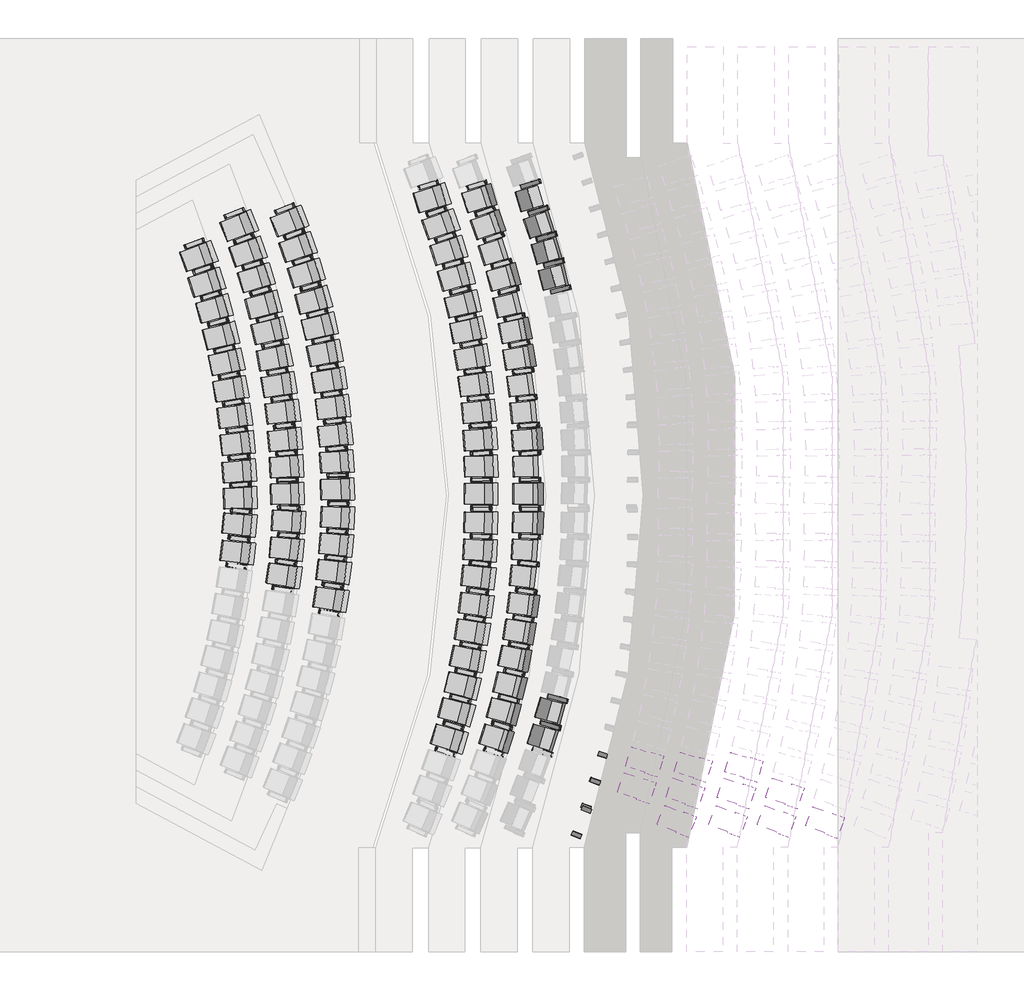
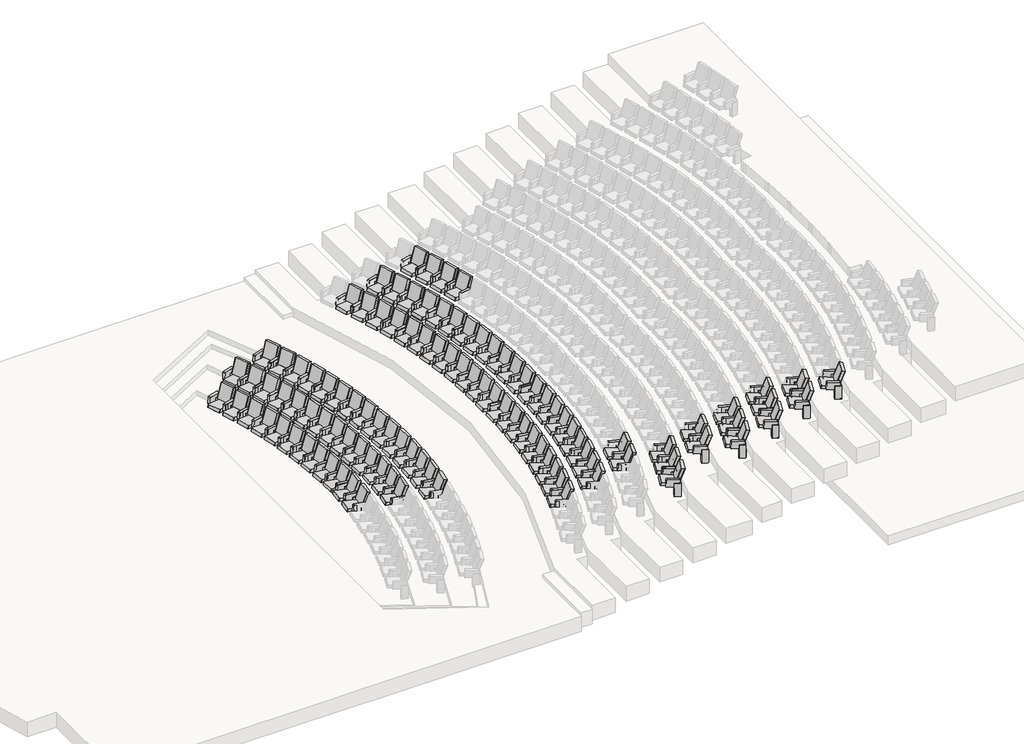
# One storey, part 2 of 5: 103 furniture elements.
"""IFC4 building model written with IfcOpenShell, lengths in millimetres."""

from ifc_helpers import new_model, si_unit, origin, place, context, project, spatial, transform, mapped, element, save
from components import flex_6035_revit_flex_6035_revit_dbd431f0, flex_6035_revit_flex_6035_revit_8256f512

model = new_model("IFC4")

# Units and contexts
model_context = context("Model", 3, world=origin())
ifc_project = project(units=[si_unit("LENGTHUNIT", "METRE", prefix="MILLI")], contexts=[model_context])

# Site, building, storey
site = spatial("IfcSite", under=ifc_project)
building = spatial("IfcBuilding", under=site)
storey = spatial("IfcBuildingStorey", under=building, Name="0 WYSOKI PARTER", Elevation=0.0)

# Furniture
placement = place(None, origin())
flex_6035_revit_flex_6035_revit_shape = flex_6035_revit_flex_6035_revit_dbd431f0(model_context)
element("IfcFurniture", 1, ObjectType="flex_6035 revit : flex_6035 revit", at=placement, inside=storey, context=model_context, shape_type="MappedRepresentation", body=[
    mapped(flex_6035_revit_flex_6035_revit_shape, transform((139299.7227715, 55275.993628, -340.0), x_axis=(-0.15207313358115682, -0.9883692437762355, 0.0), y_axis=(0.9883692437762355, -0.15207313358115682, 0.0), z_axis=(0.0, 0.0, 1.0))),
])
element("IfcFurniture", 2, ObjectType="flex_6035 revit : flex_6035 revit", at=placement, inside=storey, context=model_context, shape_type="MappedRepresentation", body=[
    mapped(flex_6035_revit_flex_6035_revit_shape, transform((139407.2433372, 56399.1333002, -340.0), x_axis=(-0.08349906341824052, -0.996507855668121, 0.0), y_axis=(0.996507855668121, -0.08349906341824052, 0.0), z_axis=(0.0, 0.0, 1.0))),
])
element("IfcFurniture", 3, ObjectType="flex_6035 revit : flex_6035 revit", at=placement, inside=storey, context=model_context, shape_type="MappedRepresentation", body=[
    mapped(flex_6035_revit_flex_6035_revit_shape, transform((139360.3416851, 55845.9928455, -340.0), x_axis=(-0.1348005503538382, -0.990872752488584, 0.0), y_axis=(0.990872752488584, -0.1348005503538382, 0.0), z_axis=(0.0, 0.0, 1.0))),
])
element("IfcFurniture", 4, ObjectType="flex_6035 revit : flex_6035 revit", at=placement, inside=storey, context=model_context, shape_type="MappedRepresentation", body=[
    mapped(flex_6035_revit_flex_6035_revit_shape, transform((139435.7279057, 56962.551015, -340.0), x_axis=(-0.04904218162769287, -0.9987967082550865, 0.0), y_axis=(0.9987967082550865, -0.04904218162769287, 0.0), z_axis=(0.0, 0.0, 1.0))),
])
element("IfcFurniture", 5, ObjectType="flex_6035 revit : flex_6035 revit", at=placement, inside=storey, context=model_context, shape_type="MappedRepresentation", body=[
    mapped(flex_6035_revit_flex_6035_revit_shape, transform((138391.5382771, 56316.3662179, -510.0), x_axis=(-0.09885877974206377, -0.9951014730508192, 0.0), y_axis=(0.9951014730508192, -0.09885877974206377, 0.0), z_axis=(0.0, 0.0, 1.0))),
])
element("IfcFurniture", 6, ObjectType="flex_6035 revit : flex_6035 revit", at=placement, inside=storey, context=model_context, shape_type="MappedRepresentation", body=[
    mapped(flex_6035_revit_flex_6035_revit_shape, transform((138336.1108369, 55764.0149469, -510.0), x_axis=(-0.15006725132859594, -0.9886757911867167, 0.0), y_axis=(0.9886757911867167, -0.15006725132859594, 0.0), z_axis=(0.0, 0.0, 1.0))),
])
element("IfcFurniture", 7, ObjectType="flex_6035 revit : flex_6035 revit", at=placement, inside=storey, context=model_context, shape_type="MappedRepresentation", body=[
    mapped(flex_6035_revit_flex_6035_revit_shape, transform((138428.709336, 56879.2775824, -510.0), x_axis=(-0.06444129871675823, -0.9979214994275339, 0.0), y_axis=(0.9979214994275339, -0.06444129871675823, 0.0), z_axis=(0.0, 0.0, 1.0))),
])
element("IfcFurniture", 8, ObjectType="flex_6035 revit : flex_6035 revit", at=placement, inside=storey, context=model_context, shape_type="MappedRepresentation", body=[
    mapped(flex_6035_revit_flex_6035_revit_shape, transform((137381.444322, 56243.2895837, -680.0), x_axis=(-0.11697618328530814, -0.9931347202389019, 0.0), y_axis=(0.9931347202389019, -0.11697618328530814, 0.0), z_axis=(0.0, 0.0, 1.0))),
])
element("IfcFurniture", 9, ObjectType="flex_6035 revit : flex_6035 revit", at=placement, inside=storey, context=model_context, shape_type="MappedRepresentation", body=[
    mapped(flex_6035_revit_flex_6035_revit_shape, transform((137421.8395751, 56815.0779923, -680.0), x_axis=(-0.0996257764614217, -0.9950249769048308, 0.0), y_axis=(0.9950249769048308, -0.0996257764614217, 0.0), z_axis=(0.0, 0.0, 1.0))),
])
element("IfcFurniture", 10, ObjectType="flex_6035 revit : flex_6035 revit", at=placement, inside=storey, context=model_context, shape_type="MappedRepresentation", body=[
    mapped(flex_6035_revit_flex_6035_revit_shape, transform((141733.5657037, 52400.8814566, 252.0), x_axis=(-0.2982954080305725, -0.9544735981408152, 0.0), y_axis=(0.9544735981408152, -0.2982954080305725, 0.0), z_axis=(0.0, 0.0, 1.0))),
])
element("IfcFurniture", 11, ObjectType="flex_6035 revit : flex_6035 revit", at=placement, inside=storey, context=model_context, shape_type="MappedRepresentation", body=[
    mapped(flex_6035_revit_flex_6035_revit_shape, transform((142010.9483862, 53494.2841804, 252.0), x_axis=(-0.23171197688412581, -0.972784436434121, 0.0), y_axis=(0.972784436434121, -0.23171197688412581, 0.0), z_axis=(0.0, 0.0, 1.0))),
])
element("IfcFurniture", 12, ObjectType="flex_6035 revit : flex_6035 revit", at=placement, inside=storey, context=model_context, shape_type="MappedRepresentation", body=[
    mapped(flex_6035_revit_flex_6035_revit_shape, transform((142115.2839717, 54048.7079398, 252.0), x_axis=(-0.1979858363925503, -0.9802048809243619, 0.0), y_axis=(0.9802048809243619, -0.1979858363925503, 0.0), z_axis=(0.0, 0.0, 1.0))),
])
element("IfcFurniture", 13, ObjectType="flex_6035 revit : flex_6035 revit", at=placement, inside=storey, context=model_context, shape_type="MappedRepresentation", body=[
    mapped(flex_6035_revit_flex_6035_revit_shape, transform((142210.2864516, 54604.5552099, 252.0), x_axis=(-0.1640235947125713, -0.9864564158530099, 0.0), y_axis=(0.9864564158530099, -0.1640235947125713, 0.0), z_axis=(0.0, 0.0, 1.0))),
])
element("IfcFurniture", 14, ObjectType="flex_6035 revit : flex_6035 revit", at=placement, inside=storey, context=model_context, shape_type="MappedRepresentation", body=[
    mapped(flex_6035_revit_flex_6035_revit_shape, transform((142287.5344551, 55163.2995157, 252.0), x_axis=(-0.12986575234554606, -0.991531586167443, 0.0), y_axis=(0.991531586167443, -0.12986575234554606, 0.0), z_axis=(0.0, 0.0, 1.0))),
])
element("IfcFurniture", 15, ObjectType="flex_6035 revit : flex_6035 revit", at=placement, inside=storey, context=model_context, shape_type="MappedRepresentation", body=[
    mapped(flex_6035_revit_flex_6035_revit_shape, transform((142369.8359476, 56288.5683101, 252.0), x_axis=(-0.06112638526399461, -0.9981300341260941, 0.0), y_axis=(0.9981300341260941, -0.06112638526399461, 0.0), z_axis=(0.0, 0.0, 1.0))),
])
element("IfcFurniture", 16, ObjectType="flex_6035 revit : flex_6035 revit", at=placement, inside=storey, context=model_context, shape_type="MappedRepresentation", body=[
    mapped(flex_6035_revit_flex_6035_revit_shape, transform((142335.3530356, 55734.5150126, 252.0), x_axis=(-0.11254136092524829, -0.9936470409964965, 0.0), y_axis=(0.9936470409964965, -0.11254136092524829, 0.0), z_axis=(0.0, 0.0, 1.0))),
])
element("IfcFurniture", 17, ObjectType="flex_6035 revit : flex_6035 revit", at=placement, inside=storey, context=model_context, shape_type="MappedRepresentation", body=[
    mapped(flex_6035_revit_flex_6035_revit_shape, transform((141884.7714646, 52957.3187684, 252.0), x_axis=(-0.2648030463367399, -0.9643025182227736, 0.0), y_axis=(0.9643025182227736, -0.2648030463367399, 0.0), z_axis=(0.0, 0.0, 1.0))),
])
element("IfcFurniture", 18, ObjectType="flex_6035 revit : flex_6035 revit", at=placement, inside=storey, context=model_context, shape_type="MappedRepresentation", body=[
    mapped(flex_6035_revit_flex_6035_revit_shape, transform((142385.6758906, 56852.4831868, 252.0), x_axis=(-0.026626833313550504, -0.9996454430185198, 0.0), y_axis=(0.9996454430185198, -0.026626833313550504, 0.0), z_axis=(0.0, 0.0, 1.0))),
])
element("IfcFurniture", 19, ObjectType="flex_6035 revit : flex_6035 revit", at=placement, inside=storey, context=model_context, shape_type="MappedRepresentation", body=[
    mapped(flex_6035_revit_flex_6035_revit_shape, transform((142733.5660647, 52400.8814566, 516.0), x_axis=(-0.2982954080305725, -0.9544735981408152, 0.0), y_axis=(0.9544735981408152, -0.2982954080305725, 0.0), z_axis=(0.0, 0.0, 1.0))),
])
element("IfcFurniture", 20, ObjectType="flex_6035 revit : flex_6035 revit", at=placement, inside=storey, context=model_context, shape_type="MappedRepresentation", body=[
    mapped(flex_6035_revit_flex_6035_revit_shape, transform((143010.9487473, 53494.2841804, 516.0), x_axis=(-0.23171197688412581, -0.972784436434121, 0.0), y_axis=(0.972784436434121, -0.23171197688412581, 0.0), z_axis=(0.0, 0.0, 1.0))),
])
element("IfcFurniture", 21, ObjectType="flex_6035 revit : flex_6035 revit", at=placement, inside=storey, context=model_context, shape_type="MappedRepresentation", body=[
    mapped(flex_6035_revit_flex_6035_revit_shape, transform((143115.2843327, 54048.7079398, 516.0), x_axis=(-0.1979858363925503, -0.9802048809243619, 0.0), y_axis=(0.9802048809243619, -0.1979858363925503, 0.0), z_axis=(0.0, 0.0, 1.0))),
])
element("IfcFurniture", 22, ObjectType="flex_6035 revit : flex_6035 revit", at=placement, inside=storey, context=model_context, shape_type="MappedRepresentation", body=[
    mapped(flex_6035_revit_flex_6035_revit_shape, transform((143210.2868126, 54604.5552099, 516.0), x_axis=(-0.1640235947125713, -0.9864564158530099, 0.0), y_axis=(0.9864564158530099, -0.1640235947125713, 0.0), z_axis=(0.0, 0.0, 1.0))),
])
element("IfcFurniture", 23, ObjectType="flex_6035 revit : flex_6035 revit", at=placement, inside=storey, context=model_context, shape_type="MappedRepresentation", body=[
    mapped(flex_6035_revit_flex_6035_revit_shape, transform((143287.5348162, 55163.2995157, 516.0), x_axis=(-0.12986575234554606, -0.991531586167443, 0.0), y_axis=(0.991531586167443, -0.12986575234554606, 0.0), z_axis=(0.0, 0.0, 1.0))),
])
element("IfcFurniture", 24, ObjectType="flex_6035 revit : flex_6035 revit", at=placement, inside=storey, context=model_context, shape_type="MappedRepresentation", body=[
    mapped(flex_6035_revit_flex_6035_revit_shape, transform((143369.8363087, 56288.5683101, 516.0), x_axis=(-0.06112638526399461, -0.9981300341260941, 0.0), y_axis=(0.9981300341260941, -0.06112638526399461, 0.0), z_axis=(0.0, 0.0, 1.0))),
])
element("IfcFurniture", 25, ObjectType="flex_6035 revit : flex_6035 revit", at=placement, inside=storey, context=model_context, shape_type="MappedRepresentation", body=[
    mapped(flex_6035_revit_flex_6035_revit_shape, transform((143335.3533967, 55734.5150126, 516.0), x_axis=(-0.11254136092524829, -0.9936470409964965, 0.0), y_axis=(0.9936470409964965, -0.11254136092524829, 0.0), z_axis=(0.0, 0.0, 1.0))),
])
element("IfcFurniture", 26, ObjectType="flex_6035 revit : flex_6035 revit", at=placement, inside=storey, context=model_context, shape_type="MappedRepresentation", body=[
    mapped(flex_6035_revit_flex_6035_revit_shape, transform((142884.7718256, 52957.3187684, 516.0), x_axis=(-0.2648030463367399, -0.9643025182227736, 0.0), y_axis=(0.9643025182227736, -0.2648030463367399, 0.0), z_axis=(0.0, 0.0, 1.0))),
])
element("IfcFurniture", 27, ObjectType="flex_6035 revit : flex_6035 revit", at=placement, inside=storey, context=model_context, shape_type="MappedRepresentation", body=[
    mapped(flex_6035_revit_flex_6035_revit_shape, transform((143385.6762516, 56852.4831868, 516.0), x_axis=(-0.026626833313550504, -0.9996454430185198, 0.0), y_axis=(0.9996454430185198, -0.026626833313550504, 0.0), z_axis=(0.0, 0.0, 1.0))),
])
element("IfcFurniture", 28, ObjectType="flex_6035 revit : flex_6035 revit", at=placement, inside=storey, context=model_context, shape_type="MappedRepresentation", body=[
    mapped(flex_6035_revit_flex_6035_revit_shape, transform((143733.5663919, 52400.8814566, 791.0), x_axis=(-0.2982954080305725, -0.9544735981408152, 0.0), y_axis=(0.9544735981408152, -0.2982954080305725, 0.0), z_axis=(0.0, 0.0, 1.0))),
])
element("IfcFurniture", 29, ObjectType="flex_6035 revit : flex_6035 revit", at=placement, inside=storey, context=model_context, shape_type="MappedRepresentation", body=[
    mapped(flex_6035_revit_flex_6035_revit_shape, transform((143884.7721528, 52957.3187684, 791.0), x_axis=(-0.2648030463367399, -0.9643025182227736, 0.0), y_axis=(0.9643025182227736, -0.2648030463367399, 0.0), z_axis=(0.0, 0.0, 1.0))),
])
element("IfcFurniture", 30, ObjectType="flex_6035 revit : flex_6035 revit", at=placement, inside=storey, context=model_context, shape_type="MappedRepresentation", body=[
    mapped(flex_6035_revit_flex_6035_revit_shape, transform((144529.2740368, 51296.0828518, 1074.0), x_axis=(-0.3382660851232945, -0.9410505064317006, 0.0), y_axis=(0.9410505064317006, -0.3382660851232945, 0.0), z_axis=(0.0, 0.0, 1.0))),
])
element("IfcFurniture", 31, ObjectType="flex_6035 revit : flex_6035 revit", at=placement, inside=storey, context=model_context, shape_type="MappedRepresentation", body=[
    mapped(flex_6035_revit_flex_6035_revit_shape, transform((144696.2072603, 51834.904665, 1074.0), x_axis=(-0.3055721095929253, -0.9521689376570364, 0.0), y_axis=(0.9521689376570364, -0.3055721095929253, 0.0), z_axis=(0.0, 0.0, 1.0))),
])
element("IfcFurniture", 32, ObjectType="flex_6035 revit : flex_6035 revit", at=placement, inside=storey, context=model_context, shape_type="MappedRepresentation", body=[
    mapped(flex_6035_revit_flex_6035_revit_shape, transform((144344.9100529, 50723.474193, 1074.0), x_axis=(-0.3719323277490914, -0.928259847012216, 0.0), y_axis=(0.928259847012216, -0.3719323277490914, 0.0), z_axis=(0.0, 0.0, 1.0))),
])
element("IfcFurniture", 33, ObjectType="flex_6035 revit : flex_6035 revit", at=placement, inside=storey, context=model_context, shape_type="MappedRepresentation", body=[
    mapped(flex_6035_revit_flex_6035_revit_shape, transform((145590.6987607, 51387.3691855, 1367.0), x_axis=(-0.3278122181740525, -0.9447429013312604, 0.0), y_axis=(0.9447429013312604, -0.3278122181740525, 0.0), z_axis=(0.0, 0.0, 1.0))),
])
element("IfcFurniture", 34, ObjectType="flex_6035 revit : flex_6035 revit", at=placement, inside=storey, context=model_context, shape_type="MappedRepresentation", body=[
    mapped(flex_6035_revit_flex_6035_revit_shape, transform((145751.6480073, 51928.0086102, 1367.0), x_axis=(-0.29499698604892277, -0.9554981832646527, 0.0), y_axis=(0.9554981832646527, -0.29499698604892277, 0.0), z_axis=(0.0, 0.0, 1.0))),
])
element("IfcFurniture", 35, ObjectType="flex_6035 revit : flex_6035 revit", at=placement, inside=storey, context=model_context, shape_type="MappedRepresentation", body=[
    mapped(flex_6035_revit_flex_6035_revit_shape, transform((146590.8518445, 51279.0654768, 1668.0), x_axis=(-0.3278122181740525, -0.9447429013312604, 0.0), y_axis=(0.9447429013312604, -0.3278122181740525, 0.0), z_axis=(0.0, 0.0, 1.0))),
])
element("IfcFurniture", 36, ObjectType="flex_6035 revit : flex_6035 revit", at=placement, inside=storey, context=model_context, shape_type="MappedRepresentation", body=[
    mapped(flex_6035_revit_flex_6035_revit_shape, transform((146751.8010911, 51819.7049014, 1668.0), x_axis=(-0.29499698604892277, -0.9554981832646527, 0.0), y_axis=(0.9554981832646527, -0.29499698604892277, 0.0), z_axis=(0.0, 0.0, 1.0))),
])
element("IfcFurniture", 37, ObjectType="flex_6035 revit : flex_6035 revit", at=placement, inside=storey, context=model_context, shape_type="MappedRepresentation", body=[
    mapped(flex_6035_revit_flex_6035_revit_shape, transform((146412.847491, 50704.4480346, 1668.0), x_axis=(-0.36161819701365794, -0.9323262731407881, 0.0), y_axis=(0.9323262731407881, -0.36161819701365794, 0.0), z_axis=(0.0, 0.0, 1.0))),
])
element("IfcFurniture", 38, ObjectType="flex_6035 revit : flex_6035 revit", at=placement, inside=storey, context=model_context, shape_type="MappedRepresentation", body=[
    mapped(flex_6035_revit_flex_6035_revit_shape, transform((147639.8700195, 51277.9646256, 1977.0), x_axis=(-0.31906039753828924, -0.947734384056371, 0.0), y_axis=(0.947734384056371, -0.31906039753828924, 0.0), z_axis=(0.0, 0.0, 1.0))),
])
element("IfcFurniture", 39, ObjectType="flex_6035 revit : flex_6035 revit", at=placement, inside=storey, context=model_context, shape_type="MappedRepresentation", body=[
    mapped(flex_6035_revit_flex_6035_revit_shape, transform((147795.8120809, 51820.069524, 1977.0), x_axis=(-0.2861470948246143, -0.9581857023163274, 0.0), y_axis=(0.9581857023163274, -0.2861470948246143, 0.0), z_axis=(0.0, 0.0, 1.0))),
])
element("IfcFurniture", 40, ObjectType="flex_6035 revit : flex_6035 revit", at=placement, inside=storey, context=model_context, shape_type="MappedRepresentation", body=[
    mapped(flex_6035_revit_flex_6035_revit_shape, transform((147467.1878387, 50701.7254225, 1977.0), x_axis=(-0.35297977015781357, -0.9356309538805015, 0.0), y_axis=(0.9356309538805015, -0.35297977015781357, 0.0), z_axis=(0.0, 0.0, 1.0))),
])
element("IfcFurniture", 41, ObjectType="flex_6035 revit : flex_6035 revit", at=placement, inside=storey, context=model_context, shape_type="MappedRepresentation", body=[
    mapped(flex_6035_revit_flex_6035_revit_shape, transform((148638.9166431, 51277.9646256, 2293.0), x_axis=(-0.31906039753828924, -0.947734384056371, 0.0), y_axis=(0.947734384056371, -0.31906039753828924, 0.0), z_axis=(0.0, 0.0, 1.0))),
])
element("IfcFurniture", 42, ObjectType="flex_6035 revit : flex_6035 revit", at=placement, inside=storey, context=model_context, shape_type="MappedRepresentation", body=[
    mapped(flex_6035_revit_flex_6035_revit_shape, transform((148466.2344623, 50701.7254225, 2293.0), x_axis=(-0.35297977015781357, -0.9356309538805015, 0.0), y_axis=(0.9356309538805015, -0.35297977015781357, 0.0), z_axis=(0.0, 0.0, 1.0))),
])
element("IfcFurniture", 43, ObjectType="flex_6035 revit : flex_6035 revit", at=placement, inside=storey, context=model_context, shape_type="MappedRepresentation", body=[
    mapped(flex_6035_revit_flex_6035_revit_shape, transform((149465.9859398, 50679.4323005, 2616.0), x_axis=(-0.35297977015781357, -0.9356309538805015, 0.0), y_axis=(0.9356309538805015, -0.35297977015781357, 0.0), z_axis=(0.0, 0.0, 1.0))),
])
flex_6035_revit_flex_6035_revit_2_shape = flex_6035_revit_flex_6035_revit_8256f512(model_context)
element("IfcFurniture", 44, ObjectType="flex_6035 revit : flex_6035 revit", at=placement, inside=storey, context=model_context, shape_type="MappedRepresentation", body=[
    mapped(flex_6035_revit_flex_6035_revit_2_shape, transform((138442.6450407, 63067.0772808, -340.0), x_axis=(-0.3614762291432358, 0.9323813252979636, 0.0), y_axis=(-0.9323813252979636, -0.3614762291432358, 0.0), z_axis=(0.0, 0.0, 1.0))),
])
element("IfcFurniture", 45, ObjectType="flex_6035 revit : flex_6035 revit", at=placement, inside=storey, context=model_context, shape_type="MappedRepresentation", body=[
    mapped(flex_6035_revit_flex_6035_revit_2_shape, transform((138622.8760182, 62532.5565214, -340.0), x_axis=(-0.329067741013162, 0.9443063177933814, 0.0), y_axis=(-0.9443063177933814, -0.329067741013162, 0.0), z_axis=(0.0, 0.0, 1.0))),
])
element("IfcFurniture", 46, ObjectType="flex_6035 revit : flex_6035 revit", at=placement, inside=storey, context=model_context, shape_type="MappedRepresentation", body=[
    mapped(flex_6035_revit_flex_6035_revit_2_shape, transform((138793.4690964, 61995.0487615, -340.0), x_axis=(-0.2962668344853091, 0.9551052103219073, 0.0), y_axis=(-0.9551052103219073, -0.2962668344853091, 0.0), z_axis=(0.0, 0.0, 1.0))),
])
element("IfcFurniture", 47, ObjectType="flex_6035 revit : flex_6035 revit", at=placement, inside=storey, context=model_context, shape_type="MappedRepresentation", body=[
    mapped(flex_6035_revit_flex_6035_revit_2_shape, transform((139068.5280801, 60901.0591708, -340.0), x_axis=(-0.22964464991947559, 0.9732745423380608, 0.0), y_axis=(-0.9732745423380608, -0.22964464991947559, 0.0), z_axis=(0.0, 0.0, 1.0))),
])
element("IfcFurniture", 48, ObjectType="flex_6035 revit : flex_6035 revit", at=placement, inside=storey, context=model_context, shape_type="MappedRepresentation", body=[
    mapped(flex_6035_revit_flex_6035_revit_2_shape, transform((139171.6854864, 60346.4149886, -340.0), x_axis=(-0.19590281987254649, 0.9806233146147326, 0.0), y_axis=(-0.9806233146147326, -0.19590281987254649, 0.0), z_axis=(0.0, 0.0, 1.0))),
])
element("IfcFurniture", 49, ObjectType="flex_6035 revit : flex_6035 revit", at=placement, inside=storey, context=model_context, shape_type="MappedRepresentation", body=[
    mapped(flex_6035_revit_flex_6035_revit_2_shape, transform((139265.5067838, 59790.3671282, -340.0), x_axis=(-0.16192737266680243, 0.9868026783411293, 0.0), y_axis=(-0.9868026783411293, -0.16192737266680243, 0.0), z_axis=(0.0, 0.0, 1.0))),
])
element("IfcFurniture", 50, ObjectType="flex_6035 revit : flex_6035 revit", at=placement, inside=storey, context=model_context, shape_type="MappedRepresentation", body=[
    mapped(flex_6035_revit_flex_6035_revit_2_shape, transform((139341.5674898, 59231.4599604, -340.0), x_axis=(-0.12775882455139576, 0.9918052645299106, 0.0), y_axis=(-0.9918052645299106, -0.12775882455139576, 0.0), z_axis=(0.0, 0.0, 1.0))),
])
element("IfcFurniture", 51, ObjectType="flex_6035 revit : flex_6035 revit", at=placement, inside=storey, context=model_context, shape_type="MappedRepresentation", body=[
    mapped(flex_6035_revit_flex_6035_revit_2_shape, transform((139421.4780202, 58106.0188457, -340.0), x_axis=(-0.059005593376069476, 0.9982576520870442, 0.0), y_axis=(-0.9982576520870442, -0.059005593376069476, 0.0), z_axis=(0.0, 0.0, 1.0))),
])
element("IfcFurniture", 52, ObjectType="flex_6035 revit : flex_6035 revit", at=placement, inside=storey, context=model_context, shape_type="MappedRepresentation", body=[
    mapped(flex_6035_revit_flex_6035_revit_2_shape, transform((139388.1723426, 58660.144156, -340.0), x_axis=(-0.11042997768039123, 0.9938839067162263, 0.0), y_axis=(-0.9938839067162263, -0.11042997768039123, 0.0), z_axis=(0.0, 0.0, 1.0))),
])
element("IfcFurniture", 53, ObjectType="flex_6035 revit : flex_6035 revit", at=placement, inside=storey, context=model_context, shape_type="MappedRepresentation", body=[
    mapped(flex_6035_revit_flex_6035_revit_2_shape, transform((138943.4922944, 61438.2914497, -340.0), x_axis=(-0.26275366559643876, 0.9648629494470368, 0.0), y_axis=(-0.9648629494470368, -0.26275366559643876, 0.0), z_axis=(0.0, 0.0, 1.0))),
])
element("IfcFurniture", 54, ObjectType="flex_6035 revit : flex_6035 revit", at=placement, inside=storey, context=model_context, shape_type="MappedRepresentation", body=[
    mapped(flex_6035_revit_flex_6035_revit_2_shape, transform((139436.1198187, 57542.0715878, -340.0), x_axis=(-0.024502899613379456, 0.9996997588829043, 0.0), y_axis=(-0.9996997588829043, -0.024502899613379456, 0.0), z_axis=(0.0, 0.0, 1.0))),
])
element("IfcFurniture", 55, ObjectType="flex_6035 revit : flex_6035 revit", at=placement, inside=storey, context=model_context, shape_type="MappedRepresentation", body=[
    mapped(flex_6035_revit_flex_6035_revit_2_shape, transform((137410.5529166, 62971.2704636, -510.0), x_axis=(-0.3614762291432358, 0.9323813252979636, 0.0), y_axis=(-0.9323813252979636, -0.3614762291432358, 0.0), z_axis=(0.0, 0.0, 1.0))),
])
element("IfcFurniture", 56, ObjectType="flex_6035 revit : flex_6035 revit", at=placement, inside=storey, context=model_context, shape_type="MappedRepresentation", body=[
    mapped(flex_6035_revit_flex_6035_revit_2_shape, transform((137590.7838941, 62436.7497042, -510.0), x_axis=(-0.329067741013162, 0.9443063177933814, 0.0), y_axis=(-0.9443063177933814, -0.329067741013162, 0.0), z_axis=(0.0, 0.0, 1.0))),
])
element("IfcFurniture", 57, ObjectType="flex_6035 revit : flex_6035 revit", at=placement, inside=storey, context=model_context, shape_type="MappedRepresentation", body=[
    mapped(flex_6035_revit_flex_6035_revit_2_shape, transform((137761.3769724, 61899.2419444, -510.0), x_axis=(-0.2962668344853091, 0.9551052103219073, 0.0), y_axis=(-0.9551052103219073, -0.2962668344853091, 0.0), z_axis=(0.0, 0.0, 1.0))),
])
element("IfcFurniture", 58, ObjectType="flex_6035 revit : flex_6035 revit", at=placement, inside=storey, context=model_context, shape_type="MappedRepresentation", body=[
    mapped(flex_6035_revit_flex_6035_revit_2_shape, transform((138036.4359561, 60805.2523537, -510.0), x_axis=(-0.22964464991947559, 0.9732745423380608, 0.0), y_axis=(-0.9732745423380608, -0.22964464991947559, 0.0), z_axis=(0.0, 0.0, 1.0))),
])
element("IfcFurniture", 59, ObjectType="flex_6035 revit : flex_6035 revit", at=placement, inside=storey, context=model_context, shape_type="MappedRepresentation", body=[
    mapped(flex_6035_revit_flex_6035_revit_2_shape, transform((138139.5933623, 60250.6081715, -510.0), x_axis=(-0.19590281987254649, 0.9806233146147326, 0.0), y_axis=(-0.9806233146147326, -0.19590281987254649, 0.0), z_axis=(0.0, 0.0, 1.0))),
])
element("IfcFurniture", 60, ObjectType="flex_6035 revit : flex_6035 revit", at=placement, inside=storey, context=model_context, shape_type="MappedRepresentation", body=[
    mapped(flex_6035_revit_flex_6035_revit_2_shape, transform((138233.4146598, 59694.5603111, -510.0), x_axis=(-0.16192737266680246, 0.9868026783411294, 0.0), y_axis=(-0.9868026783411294, -0.16192737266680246, 0.0), z_axis=(0.0, 0.0, 1.0))),
])
element("IfcFurniture", 61, ObjectType="flex_6035 revit : flex_6035 revit", at=placement, inside=storey, context=model_context, shape_type="MappedRepresentation", body=[
    mapped(flex_6035_revit_flex_6035_revit_2_shape, transform((138309.4753658, 59135.6531433, -510.0), x_axis=(-0.12775882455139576, 0.9918052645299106, 0.0), y_axis=(-0.9918052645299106, -0.12775882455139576, 0.0), z_axis=(0.0, 0.0, 1.0))),
])
element("IfcFurniture", 62, ObjectType="flex_6035 revit : flex_6035 revit", at=placement, inside=storey, context=model_context, shape_type="MappedRepresentation", body=[
    mapped(flex_6035_revit_flex_6035_revit_2_shape, transform((138389.3858962, 58010.2120286, -510.0), x_axis=(-0.059005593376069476, 0.9982576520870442, 0.0), y_axis=(-0.9982576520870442, -0.059005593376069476, 0.0), z_axis=(0.0, 0.0, 1.0))),
])
element("IfcFurniture", 63, ObjectType="flex_6035 revit : flex_6035 revit", at=placement, inside=storey, context=model_context, shape_type="MappedRepresentation", body=[
    mapped(flex_6035_revit_flex_6035_revit_2_shape, transform((138356.0802186, 58564.3373389, -510.0), x_axis=(-0.11042997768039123, 0.9938839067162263, 0.0), y_axis=(-0.9938839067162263, -0.11042997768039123, 0.0), z_axis=(0.0, 0.0, 1.0))),
])
element("IfcFurniture", 64, ObjectType="flex_6035 revit : flex_6035 revit", at=placement, inside=storey, context=model_context, shape_type="MappedRepresentation", body=[
    mapped(flex_6035_revit_flex_6035_revit_2_shape, transform((137911.4001703, 61342.4846326, -510.0), x_axis=(-0.26275366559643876, 0.9648629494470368, 0.0), y_axis=(-0.9648629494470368, -0.26275366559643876, 0.0), z_axis=(0.0, 0.0, 1.0))),
])
element("IfcFurniture", 65, ObjectType="flex_6035 revit : flex_6035 revit", at=placement, inside=storey, context=model_context, shape_type="MappedRepresentation", body=[
    mapped(flex_6035_revit_flex_6035_revit_2_shape, transform((138404.0276947, 57446.2647707, -510.0), x_axis=(-0.024502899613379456, 0.9996997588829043, 0.0), y_axis=(-0.9996997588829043, -0.024502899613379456, 0.0), z_axis=(0.0, 0.0, 1.0))),
])
element("IfcFurniture", 66, ObjectType="flex_6035 revit : flex_6035 revit", at=placement, inside=storey, context=model_context, shape_type="MappedRepresentation", body=[
    mapped(flex_6035_revit_flex_6035_revit_2_shape, transform((136577.9042041, 62344.5748727, -680.0), x_axis=(-0.338521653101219, 0.9409586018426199, 0.0), y_axis=(-0.9409586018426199, -0.338521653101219, 0.0), z_axis=(0.0, 0.0, 1.0))),
])
element("IfcFurniture", 67, ObjectType="flex_6035 revit : flex_6035 revit", at=placement, inside=storey, context=model_context, shape_type="MappedRepresentation", body=[
    mapped(flex_6035_revit_flex_6035_revit_2_shape, transform((136744.9837604, 61805.7984168, -680.0), x_axis=(-0.30583069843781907, 0.9520859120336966, 0.0), y_axis=(-0.9520859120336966, -0.30583069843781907, 0.0), z_axis=(0.0, 0.0, 1.0))),
])
element("IfcFurniture", 68, ObjectType="flex_6035 revit : flex_6035 revit", at=placement, inside=storey, context=model_context, shape_type="MappedRepresentation", body=[
    mapped(flex_6035_revit_flex_6035_revit_2_shape, transform((136902.3551209, 61264.2720139, -680.0), x_axis=(-0.2727750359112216, 0.9620778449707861, 0.0), y_axis=(-0.9620778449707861, -0.2727750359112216, 0.0), z_axis=(0.0, 0.0, 1.0))),
])
element("IfcFurniture", 69, ObjectType="flex_6035 revit : flex_6035 revit", at=placement, inside=storey, context=model_context, shape_type="MappedRepresentation", body=[
    mapped(flex_6035_revit_flex_6035_revit_2_shape, transform((137150.5256034, 60163.8711412, -680.0), x_axis=(-0.20572765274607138, 0.9786092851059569, 0.0), y_axis=(-0.9786092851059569, -0.20572765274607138, 0.0), z_axis=(0.0, 0.0, 1.0))),
])
element("IfcFurniture", 70, ObjectType="flex_6035 revit : flex_6035 revit", at=placement, inside=storey, context=model_context, shape_type="MappedRepresentation", body=[
    mapped(flex_6035_revit_flex_6035_revit_2_shape, transform((137240.0616469, 59606.8658304, -680.0), x_axis=(-0.1718158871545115, 0.9851290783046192, 0.0), y_axis=(-0.9851290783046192, -0.1718158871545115, 0.0), z_axis=(0.0, 0.0, 1.0))),
])
element("IfcFurniture", 71, ObjectType="flex_6035 revit : flex_6035 revit", at=placement, inside=storey, context=model_context, shape_type="MappedRepresentation", body=[
    mapped(flex_6035_revit_flex_6035_revit_2_shape, transform((137320.2299904, 59048.6860245, -680.0), x_axis=(-0.1376992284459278, 0.9904740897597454, 0.0), y_axis=(-0.9904740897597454, -0.1376992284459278, 0.0), z_axis=(0.0, 0.0, 1.0))),
])
element("IfcFurniture", 72, ObjectType="flex_6035 revit : flex_6035 revit", at=placement, inside=storey, context=model_context, shape_type="MappedRepresentation", body=[
    mapped(flex_6035_revit_flex_6035_revit_2_shape, transform((137382.5730137, 58488.0829558, -680.0), x_axis=(-0.10341836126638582, 0.9946379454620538, 0.0), y_axis=(-0.9946379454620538, -0.10341836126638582, 0.0), z_axis=(0.0, 0.0, 1.0))),
])
element("IfcFurniture", 73, ObjectType="flex_6035 revit : flex_6035 revit", at=placement, inside=storey, context=model_context, shape_type="MappedRepresentation", body=[
    mapped(flex_6035_revit_flex_6035_revit_2_shape, transform((137434.882981, 57361.0217051, -680.0), x_axis=(-0.034527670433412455, 0.9994037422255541, 0.0), y_axis=(-0.9994037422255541, -0.034527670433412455, 0.0), z_axis=(0.0, 0.0, 1.0))),
])
element("IfcFurniture", 74, ObjectType="flex_6035 revit : flex_6035 revit", at=placement, inside=storey, context=model_context, shape_type="MappedRepresentation", body=[
    mapped(flex_6035_revit_flex_6035_revit_2_shape, transform((137415.16498, 57915.7967299, -680.0), x_axis=(-0.08604378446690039, 0.9962913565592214, 0.0), y_axis=(-0.9962913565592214, -0.08604378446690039, 0.0), z_axis=(0.0, 0.0, 1.0))),
])
element("IfcFurniture", 75, ObjectType="flex_6035 revit : flex_6035 revit", at=placement, inside=storey, context=model_context, shape_type="MappedRepresentation", body=[
    mapped(flex_6035_revit_flex_6035_revit_2_shape, transform((137038.6911072, 60704.0058602, -680.0), x_axis=(-0.23903283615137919, 0.9710114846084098, 0.0), y_axis=(-0.9710114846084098, -0.23903283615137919, 0.0), z_axis=(0.0, 0.0, 1.0))),
])
element("IfcFurniture", 76, ObjectType="flex_6035 revit : flex_6035 revit", at=placement, inside=storey, context=model_context, shape_type="MappedRepresentation", body=[
    mapped(flex_6035_revit_flex_6035_revit_2_shape, transform((141560.1264598, 63000.9762026, 252.0), x_axis=(-0.33328636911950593, 0.9428256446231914, 0.0), y_axis=(-0.9428256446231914, -0.33328636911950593, 0.0), z_axis=(0.0, 0.0, 1.0))),
])
element("IfcFurniture", 77, ObjectType="flex_6035 revit : flex_6035 revit", at=placement, inside=storey, context=model_context, shape_type="MappedRepresentation", body=[
    mapped(flex_6035_revit_flex_6035_revit_2_shape, transform((141724.2087972, 62461.2794043, 252.0), x_axis=(-0.300534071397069, 0.9537710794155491, 0.0), y_axis=(-0.9537710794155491, -0.300534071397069, 0.0), z_axis=(0.0, 0.0, 1.0))),
])
element("IfcFurniture", 78, ObjectType="flex_6035 revit : flex_6035 revit", at=placement, inside=storey, context=model_context, shape_type="MappedRepresentation", body=[
    mapped(flex_6035_revit_flex_6035_revit_2_shape, transform((141878.5678039, 61918.8866617, 252.0), x_axis=(-0.26742338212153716, 0.9635791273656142, 0.0), y_axis=(-0.9635791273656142, -0.26742338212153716, 0.0), z_axis=(0.0, 0.0, 1.0))),
])
element("IfcFurniture", 79, ObjectType="flex_6035 revit : flex_6035 revit", at=placement, inside=storey, context=model_context, shape_type="MappedRepresentation", body=[
    mapped(flex_6035_revit_flex_6035_revit_2_shape, transform((142120.6181829, 60817.1234008, 252.0), x_axis=(-0.20028514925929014, 0.9797376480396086, 0.0), y_axis=(-0.9797376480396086, -0.20028514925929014, 0.0), z_axis=(0.0, 0.0, 1.0))),
])
element("IfcFurniture", 80, ObjectType="flex_6035 revit : flex_6035 revit", at=placement, inside=storey, context=model_context, shape_type="MappedRepresentation", body=[
    mapped(flex_6035_revit_flex_6035_revit_2_shape, transform((142207.0568853, 60259.6290331, 252.0), x_axis=(-0.1663376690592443, 0.986068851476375, 0.0), y_axis=(-0.986068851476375, -0.1663376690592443, 0.0), z_axis=(0.0, 0.0, 1.0))),
])
element("IfcFurniture", 81, ObjectType="flex_6035 revit : flex_6035 revit", at=placement, inside=storey, context=model_context, shape_type="MappedRepresentation", body=[
    mapped(flex_6035_revit_flex_6035_revit_2_shape, transform((142284.1215044, 59701.0122562, 252.0), x_axis=(-0.13219182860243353, 0.9912241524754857, 0.0), y_axis=(-0.9912241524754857, -0.13219182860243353, 0.0), z_axis=(0.0, 0.0, 1.0))),
])
element("IfcFurniture", 82, ObjectType="flex_6035 revit : flex_6035 revit", at=placement, inside=storey, context=model_context, shape_type="MappedRepresentation", body=[
    mapped(flex_6035_revit_flex_6035_revit_2_shape, transform((142343.3476095, 59140.0713308, 252.0), x_axis=(-0.09788834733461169, 0.9951974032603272, 0.0), y_axis=(-0.9951974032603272, -0.09788834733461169, 0.0), z_axis=(0.0, 0.0, 1.0))),
])
element("IfcFurniture", 83, ObjectType="flex_6035 revit : flex_6035 revit", at=placement, inside=storey, context=model_context, shape_type="MappedRepresentation", body=[
    mapped(flex_6035_revit_flex_6035_revit_2_shape, transform((142389.3923145, 58012.7367396, 252.0), x_axis=(-0.028972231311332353, 0.9995802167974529, 0.0), y_axis=(-0.9995802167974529, -0.028972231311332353, 0.0), z_axis=(0.0, 0.0, 1.0))),
])
element("IfcFurniture", 84, ObjectType="flex_6035 revit : flex_6035 revit", at=placement, inside=storey, context=model_context, shape_type="MappedRepresentation", body=[
    mapped(flex_6035_revit_flex_6035_revit_2_shape, transform((142372.7581796, 58567.6127918, 252.0), x_axis=(-0.08050484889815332, 0.9967542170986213, 0.0), y_axis=(-0.9967542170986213, -0.08050484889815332, 0.0), z_axis=(0.0, 0.0, 1.0))),
])
element("IfcFurniture", 85, ObjectType="flex_6035 revit : flex_6035 revit", at=placement, inside=storey, context=model_context, shape_type="MappedRepresentation", body=[
    mapped(flex_6035_revit_flex_6035_revit_2_shape, transform((142011.7876018, 61357.871377, 252.0), x_axis=(-0.23363204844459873, 0.9723250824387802, 0.0), y_axis=(-0.9723250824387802, -0.23363204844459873, 0.0), z_axis=(0.0, 0.0, 1.0))),
])
element("IfcFurniture", 86, ObjectType="flex_6035 revit : flex_6035 revit", at=placement, inside=storey, context=model_context, shape_type="MappedRepresentation", body=[
    mapped(flex_6035_revit_flex_6035_revit_2_shape, transform((142387.0757654, 57448.6041971, 252.0), x_axis=(0.00555821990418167, 0.9999845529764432, 0.0), y_axis=(-0.9999845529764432, 0.00555821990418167, 0.0), z_axis=(0.0, 0.0, 1.0))),
])
element("IfcFurniture", 87, ObjectType="flex_6035 revit : flex_6035 revit", at=placement, inside=storey, context=model_context, shape_type="MappedRepresentation", body=[
    mapped(flex_6035_revit_flex_6035_revit_2_shape, transform((141379.4412228, 63543.0454907, 252.0), x_axis=(-0.300534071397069, 0.9537710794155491, 0.0), y_axis=(-0.9537710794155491, -0.300534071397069, 0.0), z_axis=(0.0, 0.0, 1.0))),
])
element("IfcFurniture", 88, ObjectType="flex_6035 revit : flex_6035 revit", at=placement, inside=storey, context=model_context, shape_type="MappedRepresentation", body=[
    mapped(flex_6035_revit_flex_6035_revit_2_shape, transform((142560.1268208, 63000.9762026, 516.0), x_axis=(-0.33328636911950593, 0.9428256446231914, 0.0), y_axis=(-0.9428256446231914, -0.33328636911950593, 0.0), z_axis=(0.0, 0.0, 1.0))),
])
element("IfcFurniture", 89, ObjectType="flex_6035 revit : flex_6035 revit", at=placement, inside=storey, context=model_context, shape_type="MappedRepresentation", body=[
    mapped(flex_6035_revit_flex_6035_revit_2_shape, transform((142724.2091582, 62461.2794043, 516.0), x_axis=(-0.300534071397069, 0.9537710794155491, 0.0), y_axis=(-0.9537710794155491, -0.300534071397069, 0.0), z_axis=(0.0, 0.0, 1.0))),
])
element("IfcFurniture", 90, ObjectType="flex_6035 revit : flex_6035 revit", at=placement, inside=storey, context=model_context, shape_type="MappedRepresentation", body=[
    mapped(flex_6035_revit_flex_6035_revit_2_shape, transform((142878.568165, 61918.8866617, 516.0), x_axis=(-0.26742338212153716, 0.9635791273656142, 0.0), y_axis=(-0.9635791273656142, -0.26742338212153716, 0.0), z_axis=(0.0, 0.0, 1.0))),
])
element("IfcFurniture", 91, ObjectType="flex_6035 revit : flex_6035 revit", at=placement, inside=storey, context=model_context, shape_type="MappedRepresentation", body=[
    mapped(flex_6035_revit_flex_6035_revit_2_shape, transform((143120.618544, 60817.1234008, 516.0), x_axis=(-0.20028514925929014, 0.9797376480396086, 0.0), y_axis=(-0.9797376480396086, -0.20028514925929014, 0.0), z_axis=(0.0, 0.0, 1.0))),
])
element("IfcFurniture", 92, ObjectType="flex_6035 revit : flex_6035 revit", at=placement, inside=storey, context=model_context, shape_type="MappedRepresentation", body=[
    mapped(flex_6035_revit_flex_6035_revit_2_shape, transform((143207.0572464, 60259.6290331, 516.0), x_axis=(-0.1663376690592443, 0.986068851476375, 0.0), y_axis=(-0.986068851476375, -0.1663376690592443, 0.0), z_axis=(0.0, 0.0, 1.0))),
])
element("IfcFurniture", 93, ObjectType="flex_6035 revit : flex_6035 revit", at=placement, inside=storey, context=model_context, shape_type="MappedRepresentation", body=[
    mapped(flex_6035_revit_flex_6035_revit_2_shape, transform((143284.1218655, 59701.0122562, 516.0), x_axis=(-0.13219182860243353, 0.9912241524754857, 0.0), y_axis=(-0.9912241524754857, -0.13219182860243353, 0.0), z_axis=(0.0, 0.0, 1.0))),
])
element("IfcFurniture", 94, ObjectType="flex_6035 revit : flex_6035 revit", at=placement, inside=storey, context=model_context, shape_type="MappedRepresentation", body=[
    mapped(flex_6035_revit_flex_6035_revit_2_shape, transform((143343.3479705, 59140.0713308, 516.0), x_axis=(-0.09788834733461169, 0.9951974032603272, 0.0), y_axis=(-0.9951974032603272, -0.09788834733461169, 0.0), z_axis=(0.0, 0.0, 1.0))),
])
element("IfcFurniture", 95, ObjectType="flex_6035 revit : flex_6035 revit", at=placement, inside=storey, context=model_context, shape_type="MappedRepresentation", body=[
    mapped(flex_6035_revit_flex_6035_revit_2_shape, transform((143389.3926755, 58012.7367396, 516.0), x_axis=(-0.028972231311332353, 0.9995802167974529, 0.0), y_axis=(-0.9995802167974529, -0.028972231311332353, 0.0), z_axis=(0.0, 0.0, 1.0))),
])
element("IfcFurniture", 96, ObjectType="flex_6035 revit : flex_6035 revit", at=placement, inside=storey, context=model_context, shape_type="MappedRepresentation", body=[
    mapped(flex_6035_revit_flex_6035_revit_2_shape, transform((143372.7585407, 58567.6127918, 516.0), x_axis=(-0.08050484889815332, 0.9967542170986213, 0.0), y_axis=(-0.9967542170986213, -0.08050484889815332, 0.0), z_axis=(0.0, 0.0, 1.0))),
])
element("IfcFurniture", 97, ObjectType="flex_6035 revit : flex_6035 revit", at=placement, inside=storey, context=model_context, shape_type="MappedRepresentation", body=[
    mapped(flex_6035_revit_flex_6035_revit_2_shape, transform((143011.7879628, 61357.871377, 516.0), x_axis=(-0.23363204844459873, 0.9723250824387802, 0.0), y_axis=(-0.9723250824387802, -0.23363204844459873, 0.0), z_axis=(0.0, 0.0, 1.0))),
])
element("IfcFurniture", 98, ObjectType="flex_6035 revit : flex_6035 revit", at=placement, inside=storey, context=model_context, shape_type="MappedRepresentation", body=[
    mapped(flex_6035_revit_flex_6035_revit_2_shape, transform((143387.0761264, 57448.6041971, 516.0), x_axis=(0.00555821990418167, 0.9999845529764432, 0.0), y_axis=(-0.9999845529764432, 0.00555821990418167, 0.0), z_axis=(0.0, 0.0, 1.0))),
])
element("IfcFurniture", 99, ObjectType="flex_6035 revit : flex_6035 revit", at=placement, inside=storey, context=model_context, shape_type="MappedRepresentation", body=[
    mapped(flex_6035_revit_flex_6035_revit_2_shape, transform((142379.4415838, 63543.0454907, 516.0), x_axis=(-0.300534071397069, 0.9537710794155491, 0.0), y_axis=(-0.9537710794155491, -0.300534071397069, 0.0), z_axis=(0.0, 0.0, 1.0))),
])
element("IfcFurniture", 100, ObjectType="flex_6035 revit : flex_6035 revit", at=placement, inside=storey, context=model_context, shape_type="MappedRepresentation", body=[
    mapped(flex_6035_revit_flex_6035_revit_2_shape, transform((143653.7020118, 63019.3995924, 791.0), x_axis=(-0.31738209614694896, 0.9482977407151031, 0.0), y_axis=(-0.9482977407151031, -0.31738209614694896, 0.0), z_axis=(0.0, 0.0, 1.0))),
])
element("IfcFurniture", 101, ObjectType="flex_6035 revit : flex_6035 revit", at=placement, inside=storey, context=model_context, shape_type="MappedRepresentation", body=[
    mapped(flex_6035_revit_flex_6035_revit_2_shape, transform((143808.6841251, 62477.0194747, 791.0), x_axis=(-0.2844503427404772, 0.9586907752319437, 0.0), y_axis=(-0.9586907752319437, -0.2844503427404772, 0.0), z_axis=(0.0, 0.0, 1.0))),
])
element("IfcFurniture", 102, ObjectType="flex_6035 revit : flex_6035 revit", at=placement, inside=storey, context=model_context, shape_type="MappedRepresentation", body=[
    mapped(flex_6035_revit_flex_6035_revit_2_shape, transform((143953.8989407, 61932.1073281, 791.0), x_axis=(-0.2511793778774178, 0.9679405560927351, 0.0), y_axis=(-0.9679405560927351, -0.2511793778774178, 0.0), z_axis=(0.0, 0.0, 1.0))),
])
element("IfcFurniture", 103, ObjectType="flex_6035 revit : flex_6035 revit", at=placement, inside=storey, context=model_context, shape_type="MappedRepresentation", body=[
    mapped(flex_6035_revit_flex_6035_revit_2_shape, transform((143482.1592496, 63564.4311041, 791.0), x_axis=(-0.2844503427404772, 0.9586907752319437, 0.0), y_axis=(-0.9586907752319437, -0.2844503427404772, 0.0), z_axis=(0.0, 0.0, 1.0))),
])

save(model, "model.ifc")
